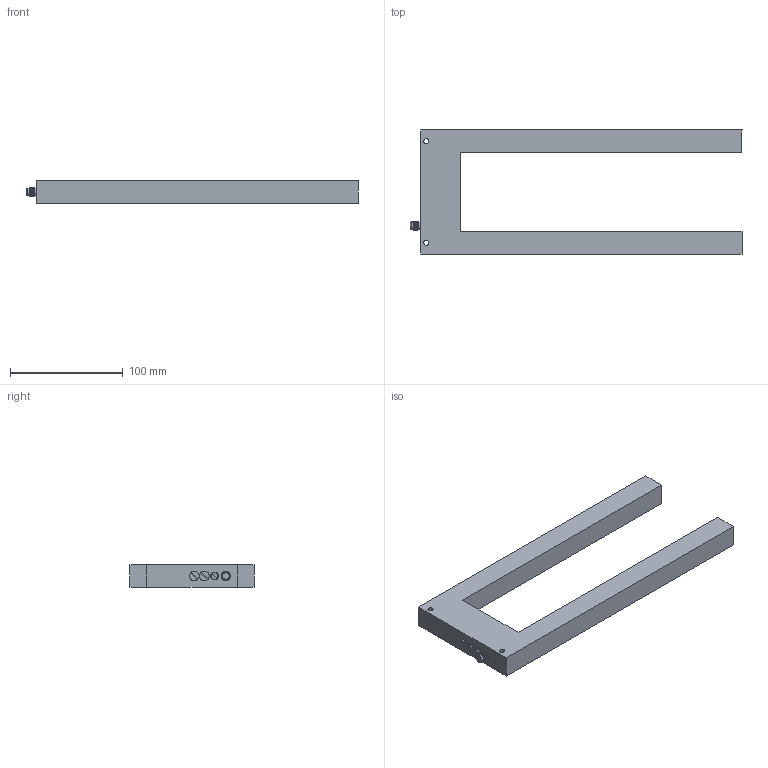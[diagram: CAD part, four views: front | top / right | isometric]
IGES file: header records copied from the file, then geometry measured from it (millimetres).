
Start section: IMSI TurboCAD v14.0
Global section: author: NULL; organization: NULL; date: 20200901.121136; units: millimetre
Bounding box: 294.42 x 110 x 20 mm (x, y, z)
Surface area: 54396.9 mm2 (no closed solid volume)
Topology: 0 solids, 0 shells, 86 faces, 417 edges, 417 vertices
Faces by surface type: revolution 44, extrusion 40, bspline 2
